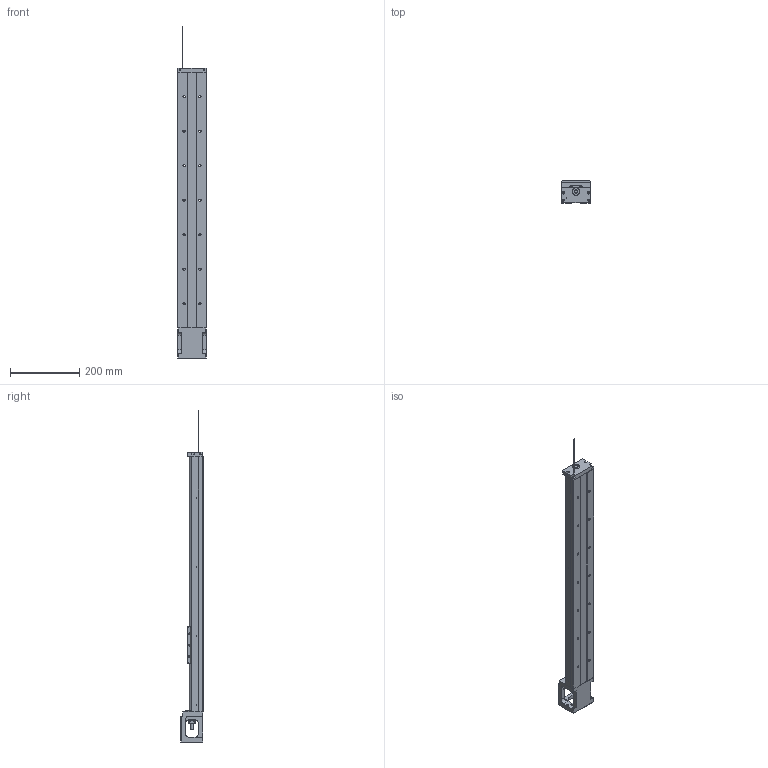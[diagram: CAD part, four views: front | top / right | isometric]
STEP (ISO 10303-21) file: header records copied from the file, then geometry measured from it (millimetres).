
FILE_DESCRIPTION(/* description */ (''),/* implementation_level */ '2;1');
FILE_NAME(/* name */ '46L-740low.stp',/* time_stamp */ '2018-02-12T11:38:41+08:00',/* author */ (''),/* organization */ (''),/* preprocessor_version */ 'ST-DEVELOPER v11',/* originating_system */ 'SIEMENS UGS NX 6.0',/* authorisation */ '');
FILE_SCHEMA (('AUTOMOTIVE_DESIGN { 1 0 10303 214 1 1 1 1 }'));
Length unit declared in the file: millimetre
Products named in the file (1): 3.069
Bounding box: 86 x 64 x 961.69 mm (x, y, z)
Volume: 1667379 mm3; surface area: 358672.2 mm2
Topology: 5 solids, 13 shells, 643 faces, 1702 edges, 1115 vertices
Faces by surface type: plane 288, cylinder 237, cone 60, bspline 50, torus 8
Full cylindrical faces by diameter (mm): 2.11 x4, 2.15 x8, 2.42 x8, 3 x6, 3.2 x4, 3.3 x6, 3.4 x8, 4.2 x4, 4.5 x8, 5 x10, 6 x8, 6.35 x2, 6.6 x14, 8 x1, 9.6 x1, 10 x3, 11 x14, 12 x1, 14.95 x2, 15 x1, 16 x2, 22 x3, 27.5 x1, 44 x1, 50 x1
Entity records: 31900 total; most frequent: CARTESIAN_POINT 12804, ORIENTED_EDGE 2910, DIRECTION 2803, EDGE_CURVE 1455, AXIS2_PLACEMENT_3D 1043, VERTEX_POINT 1042, EDGE_LOOP 911, LINE 717
